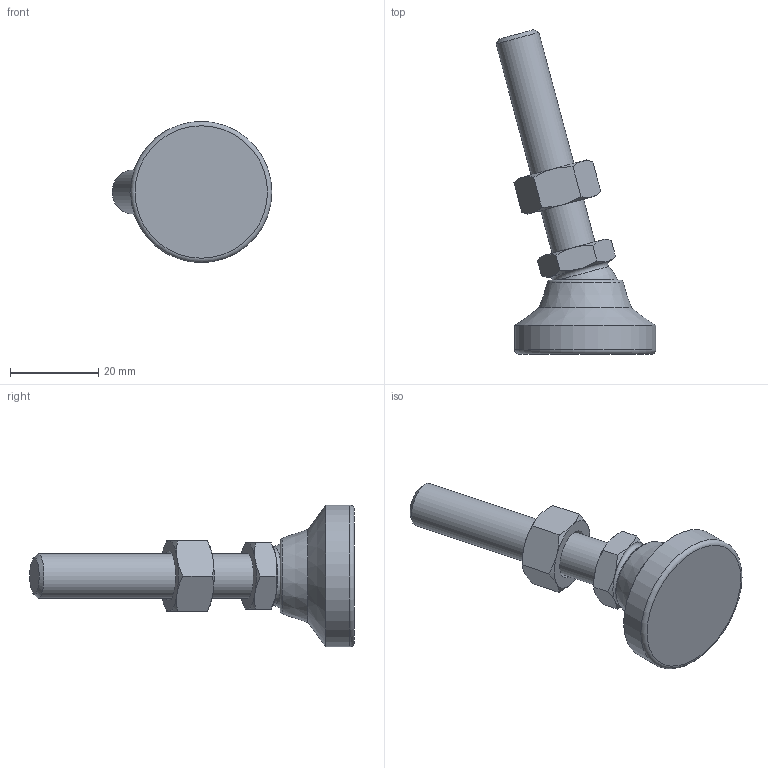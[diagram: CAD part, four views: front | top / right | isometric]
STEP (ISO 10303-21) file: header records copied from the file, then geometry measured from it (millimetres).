
FILE_DESCRIPTION( ( 'STEP AP214' ), ' ' );
FILE_NAME( 'O:/ganter_2015/teil_2/2_5/gn343_2/gn343_2_ks/Levelling foot with threaded stud GN 343.2-32-M10-50-KS-(15).stp', '2015-10-26T09:09:49', ( '' ), ( '' ), ' ', 'PARTsolutions', ' ' );
FILE_SCHEMA( ( 'AUTOMOTIVE_DESIGN { 1 0 10303 214 1 1 1 1 }' ) );
Length unit declared in the file: millimetre
Products named in the file (4): Levelling foot with threaded stud GN 343.2-32-M10-50-KS-(15); _Levelling foot with threaded stud GN 343.2-32-M10-50-KS-(15)_foot; _Gelenkfuss mit Schraube GN 343.2-32-M10-50-KS-(15)_screw; _GLevelling foot with threaded stud GN 343.2-32-M10-50-KS-(15)_nut
Assembly tree (3 placements, depth 2):
  Levelling foot with threaded stud GN 343.2-32-M10-50-KS-(15)
    _Levelling foot with threaded stud GN 343.2-32-M10-50-KS-(15)_foot
    _Gelenkfuss mit Schraube GN 343.2-32-M10-50-KS-(15)_screw
    _GLevelling foot with threaded stud GN 343.2-32-M10-50-KS-(15)_nut
Bounding box: 36.19 x 73.51 x 32 mm (x, y, z)
Volume: 15858.1 mm3; surface area: 6556.4 mm2
Topology: 3 solids, 3 shells, 50 faces, 107 edges, 63 vertices
Faces by surface type: cone 24, plane 18, torus 3, cylinder 3, sphere 2
Full cylindrical faces by diameter (mm): 8.376 x1, 10 x1, 32 x1
Entity records: 1874 total; most frequent: CARTESIAN_POINT 468, DIRECTION 188, ORIENTED_EDGE 176, AXIS2_PLACEMENT_3D 88, EDGE_CURVE 88, EDGE_LOOP 66, VERTEX_POINT 60, FACE_OUTER_BOUND 56
